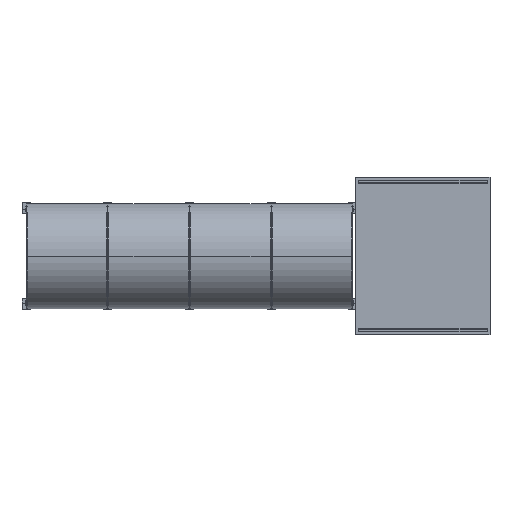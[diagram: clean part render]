
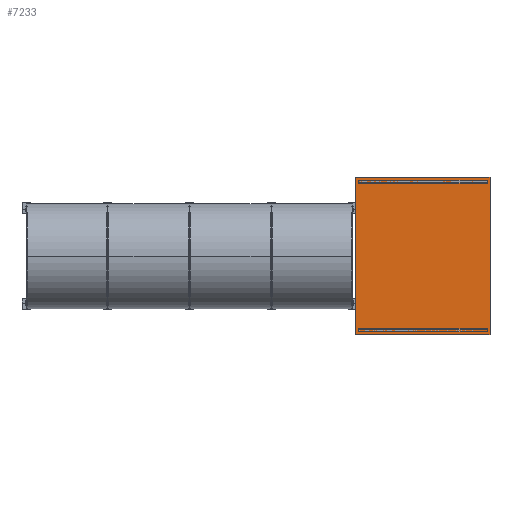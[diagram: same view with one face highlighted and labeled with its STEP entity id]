
A CAD part, top view. The second image highlights one B-rep face of the part: STEP entity #7233.
In plain terms, the highlighted planar face has unit normal (0, 0, 1).
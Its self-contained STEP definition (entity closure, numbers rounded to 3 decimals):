
#6919 = VERTEX_POINT('',#6920);
#6920 = CARTESIAN_POINT('',(7250.,-1350.,4000.));
#6927 = PLANE('',#6928);
#6928 = AXIS2_PLACEMENT_3D('',#6929,#6930,#6931);
#6929 = CARTESIAN_POINT('',(7250.,-1350.,3997.));
#6930 = DIRECTION('',(1.,0.,0.));
#6931 = DIRECTION('',(0.,0.,1.));
#6939 = PLANE('',#6940);
#6940 = AXIS2_PLACEMENT_3D('',#6941,#6942,#6943);
#6941 = CARTESIAN_POINT('',(7250.,-1350.,3997.));
#6942 = DIRECTION('',(0.,1.,0.));
#6943 = DIRECTION('',(0.,-0.,1.));
#6980 = VERTEX_POINT('',#6981);
#6981 = CARTESIAN_POINT('',(7250.,1350.,4000.));
#6995 = PLANE('',#6996);
#6996 = AXIS2_PLACEMENT_3D('',#6997,#6998,#6999);
#6997 = CARTESIAN_POINT('',(7250.,1350.,3997.));
#6998 = DIRECTION('',(0.,1.,0.));
#6999 = DIRECTION('',(0.,-0.,1.));
#7007 = EDGE_CURVE('',#6919,#6980,#7008,.T.);
#7008 = SURFACE_CURVE('',#7009,(#7013,#7020),.PCURVE_S1.);
#7009 = LINE('',#7010,#7011);
#7010 = CARTESIAN_POINT('',(7250.,-1350.,4000.));
#7011 = VECTOR('',#7012,1.);
#7012 = DIRECTION('',(0.,1.,0.));
#7013 = PCURVE('',#6927,#7014);
#7014 = DEFINITIONAL_REPRESENTATION('',(#7015),#7019);
#7015 = LINE('',#7016,#7017);
#7016 = CARTESIAN_POINT('',(3.,0.));
#7017 = VECTOR('',#7018,1.);
#7018 = DIRECTION('',(0.,-1.));
#7019 = ( GEOMETRIC_REPRESENTATION_CONTEXT(2) 
PARAMETRIC_REPRESENTATION_CONTEXT() REPRESENTATION_CONTEXT('2D SPACE',''
  ) );
#7020 = PCURVE('',#7021,#7026);
#7021 = PLANE('',#7022);
#7022 = AXIS2_PLACEMENT_3D('',#7023,#7024,#7025);
#7023 = CARTESIAN_POINT('',(7250.,-1350.,4000.));
#7024 = DIRECTION('',(0.,0.,1.));
#7025 = DIRECTION('',(1.,0.,-0.));
#7026 = DEFINITIONAL_REPRESENTATION('',(#7027),#7031);
#7027 = LINE('',#7028,#7029);
#7028 = CARTESIAN_POINT('',(0.,0.));
#7029 = VECTOR('',#7030,1.);
#7030 = DIRECTION('',(0.,1.));
#7031 = ( GEOMETRIC_REPRESENTATION_CONTEXT(2) 
PARAMETRIC_REPRESENTATION_CONTEXT() REPRESENTATION_CONTEXT('2D SPACE',''
  ) );
#7039 = VERTEX_POINT('',#7040);
#7040 = CARTESIAN_POINT('',(9550.,-1350.,4000.));
#7047 = PLANE('',#7048);
#7048 = AXIS2_PLACEMENT_3D('',#7049,#7050,#7051);
#7049 = CARTESIAN_POINT('',(9550.,-1350.,3997.));
#7050 = DIRECTION('',(1.,0.,0.));
#7051 = DIRECTION('',(0.,0.,1.));
#7090 = VERTEX_POINT('',#7091);
#7091 = CARTESIAN_POINT('',(9550.,1350.,4000.));
#7112 = EDGE_CURVE('',#7039,#7090,#7113,.T.);
#7113 = SURFACE_CURVE('',#7114,(#7118,#7125),.PCURVE_S1.);
#7114 = LINE('',#7115,#7116);
#7115 = CARTESIAN_POINT('',(9550.,-1350.,4000.));
#7116 = VECTOR('',#7117,1.);
#7117 = DIRECTION('',(0.,1.,0.));
#7118 = PCURVE('',#7047,#7119);
#7119 = DEFINITIONAL_REPRESENTATION('',(#7120),#7124);
#7120 = LINE('',#7121,#7122);
#7121 = CARTESIAN_POINT('',(3.,0.));
#7122 = VECTOR('',#7123,1.);
#7123 = DIRECTION('',(0.,-1.));
#7124 = ( GEOMETRIC_REPRESENTATION_CONTEXT(2) 
PARAMETRIC_REPRESENTATION_CONTEXT() REPRESENTATION_CONTEXT('2D SPACE',''
  ) );
#7125 = PCURVE('',#7021,#7126);
#7126 = DEFINITIONAL_REPRESENTATION('',(#7127),#7131);
#7127 = LINE('',#7128,#7129);
#7128 = CARTESIAN_POINT('',(2300.,0.));
#7129 = VECTOR('',#7130,1.);
#7130 = DIRECTION('',(0.,1.));
#7131 = ( GEOMETRIC_REPRESENTATION_CONTEXT(2) 
PARAMETRIC_REPRESENTATION_CONTEXT() REPRESENTATION_CONTEXT('2D SPACE',''
  ) );
#7158 = EDGE_CURVE('',#6919,#7039,#7159,.T.);
#7159 = SURFACE_CURVE('',#7160,(#7164,#7171),.PCURVE_S1.);
#7160 = LINE('',#7161,#7162);
#7161 = CARTESIAN_POINT('',(7250.,-1350.,4000.));
#7162 = VECTOR('',#7163,1.);
#7163 = DIRECTION('',(1.,0.,0.));
#7164 = PCURVE('',#6939,#7165);
#7165 = DEFINITIONAL_REPRESENTATION('',(#7166),#7170);
#7166 = LINE('',#7167,#7168);
#7167 = CARTESIAN_POINT('',(3.,0.));
#7168 = VECTOR('',#7169,1.);
#7169 = DIRECTION('',(0.,1.));
#7170 = ( GEOMETRIC_REPRESENTATION_CONTEXT(2) 
PARAMETRIC_REPRESENTATION_CONTEXT() REPRESENTATION_CONTEXT('2D SPACE',''
  ) );
#7171 = PCURVE('',#7021,#7172);
#7172 = DEFINITIONAL_REPRESENTATION('',(#7173),#7177);
#7173 = LINE('',#7174,#7175);
#7174 = CARTESIAN_POINT('',(0.,0.));
#7175 = VECTOR('',#7176,1.);
#7176 = DIRECTION('',(1.,0.));
#7177 = ( GEOMETRIC_REPRESENTATION_CONTEXT(2) 
PARAMETRIC_REPRESENTATION_CONTEXT() REPRESENTATION_CONTEXT('2D SPACE',''
  ) );
#7205 = EDGE_CURVE('',#6980,#7090,#7206,.T.);
#7206 = SURFACE_CURVE('',#7207,(#7211,#7218),.PCURVE_S1.);
#7207 = LINE('',#7208,#7209);
#7208 = CARTESIAN_POINT('',(7250.,1350.,4000.));
#7209 = VECTOR('',#7210,1.);
#7210 = DIRECTION('',(1.,0.,0.));
#7211 = PCURVE('',#6995,#7212);
#7212 = DEFINITIONAL_REPRESENTATION('',(#7213),#7217);
#7213 = LINE('',#7214,#7215);
#7214 = CARTESIAN_POINT('',(3.,0.));
#7215 = VECTOR('',#7216,1.);
#7216 = DIRECTION('',(0.,1.));
#7217 = ( GEOMETRIC_REPRESENTATION_CONTEXT(2) 
PARAMETRIC_REPRESENTATION_CONTEXT() REPRESENTATION_CONTEXT('2D SPACE',''
  ) );
#7218 = PCURVE('',#7021,#7219);
#7219 = DEFINITIONAL_REPRESENTATION('',(#7220),#7224);
#7220 = LINE('',#7221,#7222);
#7221 = CARTESIAN_POINT('',(0.,2700.));
#7222 = VECTOR('',#7223,1.);
#7223 = DIRECTION('',(1.,0.));
#7224 = ( GEOMETRIC_REPRESENTATION_CONTEXT(2) 
PARAMETRIC_REPRESENTATION_CONTEXT() REPRESENTATION_CONTEXT('2D SPACE',''
  ) );
#7233 = ADVANCED_FACE('',(#7234),#7021,.T.);
#7234 = FACE_BOUND('',#7235,.T.);
#7235 = EDGE_LOOP('',(#7236,#7237,#7238,#7239));
#7236 = ORIENTED_EDGE('',*,*,#7007,.F.);
#7237 = ORIENTED_EDGE('',*,*,#7158,.T.);
#7238 = ORIENTED_EDGE('',*,*,#7112,.T.);
#7239 = ORIENTED_EDGE('',*,*,#7205,.F.);
